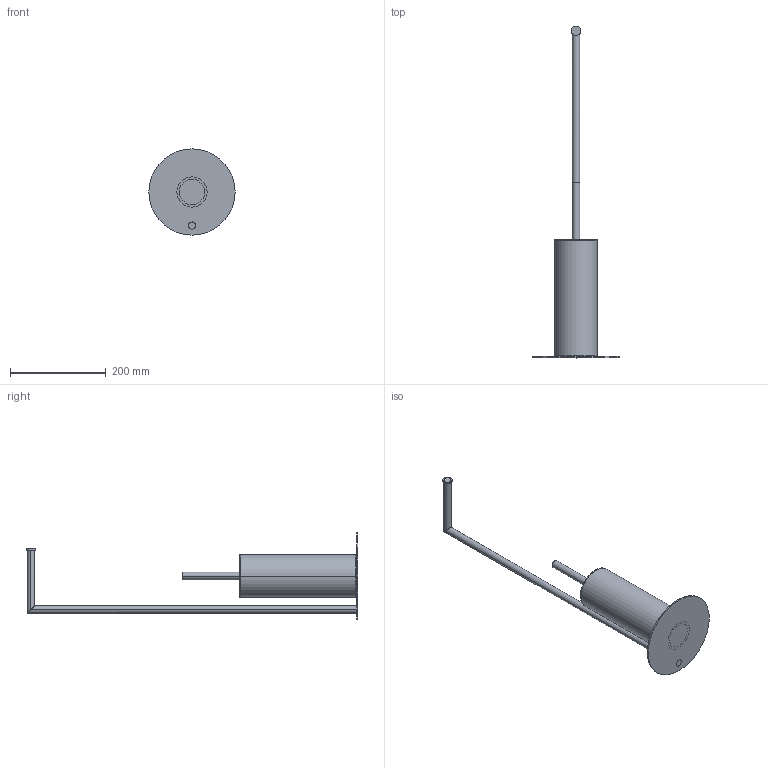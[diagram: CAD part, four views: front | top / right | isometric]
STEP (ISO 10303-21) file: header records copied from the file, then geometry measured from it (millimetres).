
FILE_DESCRIPTION (( 'STEP AP214' ), '1' );
FILE_NAME ('Szczotka do WC i uchwyt na papier TORIA.STEP', '2024-10-03T09:38:53', ( '' ), ( '' ), 'SwSTEP 2.0', 'SolidWorks 2021', '' );
FILE_SCHEMA (( 'AUTOMOTIVE_DESIGN' ));
Length unit declared in the file: millimetre
Products named in the file (14): 04-007-0363-S-02-01; 04-009-0692-S-01-01 do wizulizacji; Szczotka do WC i uchwyt na papier TORIA; 04-007-0363-S-02-02; 04-007-0363-S-01-01; 04-007-0363-S-02-00; 04-001-0362-S-00-03; 04-007-0363-S-01-02; 04-009-0692-S-01-04 do wizualizacji; 04-009-0692-S-01-03; 04-009-0692-S-02-01; 04-009-0692-S-01-02; 04-009-0692-S-02-00; 04-009-0692-S-01-00 do wizualizacji
Assembly tree (13 placements, depth 3):
  Szczotka do WC i uchwyt na papier TORIA
    04-009-0692-S-01-00 do wizualizacji
      04-009-0692-S-01-01 do wizulizacji
      04-009-0692-S-01-02
      04-009-0692-S-01-03
      04-009-0692-S-01-04 do wizualizacji
    04-009-0692-S-02-00
      04-007-0363-S-01-01
      04-007-0363-S-01-02
      04-009-0692-S-02-01
    04-007-0363-S-02-00
      04-007-0363-S-02-01
      04-007-0363-S-02-02
    04-001-0362-S-00-03
Bounding box: 180 x 692.5 x 180 mm (x, y, z)
Volume: 399357.4 mm3; surface area: 261942.5 mm2
Topology: 10 solids, 10 shells, 64 faces, 126 edges, 81 vertices
Faces by surface type: cylinder 38, plane 20, cone 6
Entity records: 2258 total; most frequent: DIRECTION 362, CARTESIAN_POINT 300, ORIENTED_EDGE 248, AXIS2_PLACEMENT_3D 159, EDGE_CURVE 124, EDGE_LOOP 81, VERTEX_POINT 81, CIRCLE 76
